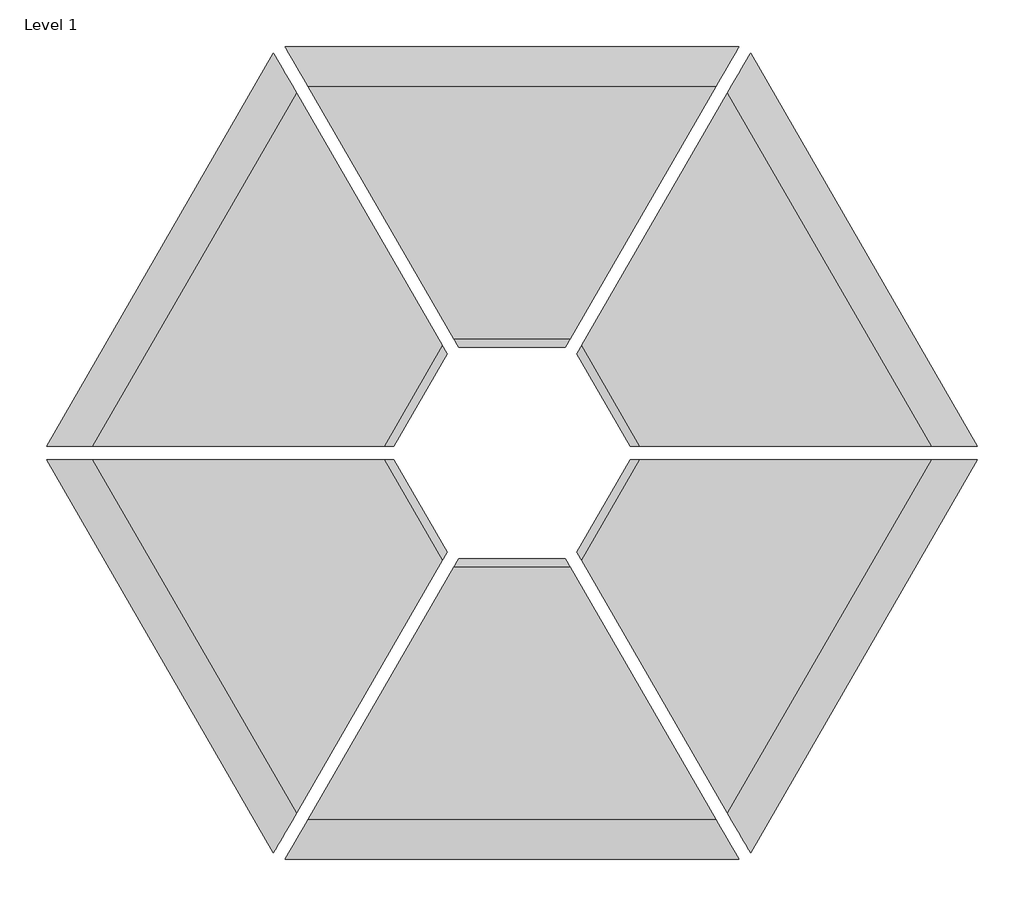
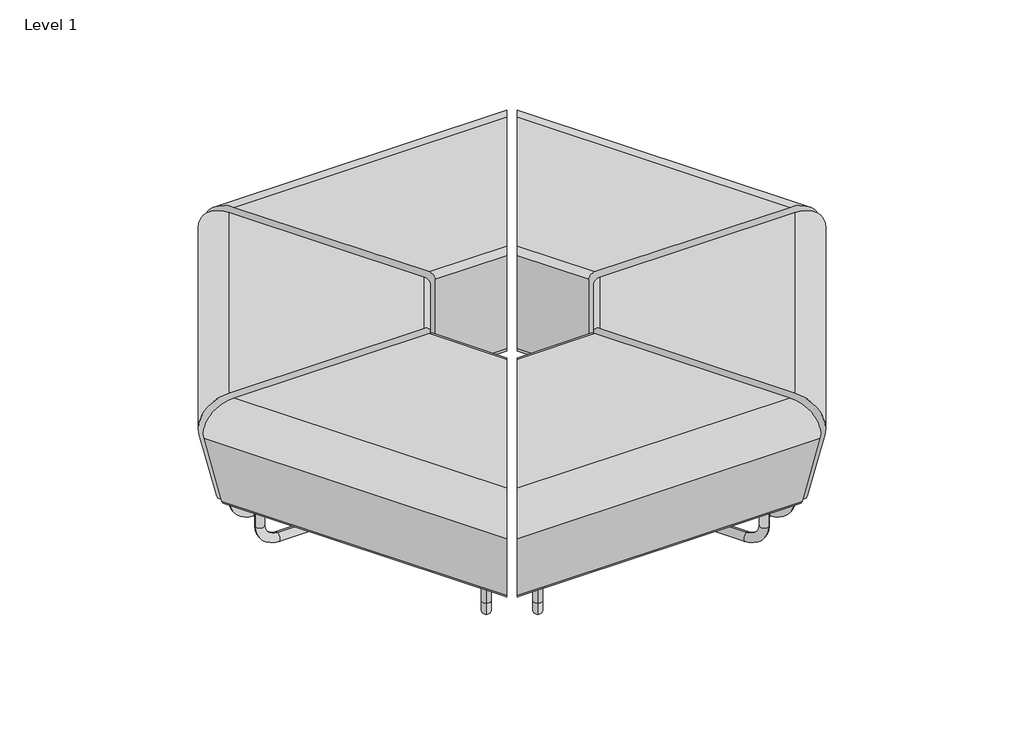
# One storey, incomplete: 6 furniture elements.
"""IFC4 building model written with IfcOpenShell, lengths in millimetres."""

import ifcopenshell
import ifcopenshell.guid

model = None  # the IFC model being written
_history = None  # IfcOwnerHistory: only IFC2X3 demands one
_inside = {}  # id of a spatial element -> (the spatial element, [elements in it])
_under = {}  # id of a project, library or spatial element -> (it, [spatial elements below it])
_declared = {}  # id of a project -> (the project, [libraries it declares])
_typed = {}  # id of a type object -> (the type object, [elements of that type])
_made_of = {}  # id of a material, layer set ... -> (it, [elements and type objects made of it])


def new_model(schema):
    """Start an empty IFC model of exactly this schema.

    Asked for "IFC4X3", IfcOpenShell would pick the latest addendum, in which some entities
    have other attributes; the version numbers below select the first issue.
    IFC2X3 requires an IfcOwnerHistory on every rooted entity: one is made here for all.
    """
    global model, _history
    if schema == "IFC4X3":
        model = ifcopenshell.file(schema_version=(4, 3, 0, 0))
    else:
        model = ifcopenshell.file(schema=schema)
    _inside.clear()
    _under.clear()
    _declared.clear()
    _typed.clear()
    _made_of.clear()
    _history = None
    if model.schema == "IFC2X3":
        org = make("IfcOrganization", Name="unknown")
        user = make(
            "IfcPersonAndOrganization",
            ThePerson=make("IfcPerson", FamilyName="unknown"),
            TheOrganization=org,
        )
        app = make(
            "IfcApplication",
            ApplicationDeveloper=org,
            Version="unknown",
            ApplicationFullName="unknown",
            ApplicationIdentifier="unknown",
        )
        _history = make(
            "IfcOwnerHistory",
            OwningUser=user,
            OwningApplication=app,
            ChangeAction="ADDED",
            CreationDate=0,
        )
    return model


def make(cls, **values):
    """One entity of the class cls with the attributes given. An attribute that is None is left unset."""
    return model.create_entity(
        cls, **{name: value for name, value in values.items() if value is not None}
    )


def rooted(cls, **values):
    """An entity with a GlobalId (a new one), such as an element, a storey or a relation."""
    return make(cls, GlobalId=ifcopenshell.guid.new(), OwnerHistory=_history, **values)


def si_unit(unit_type, name, prefix=None):
    """IfcSIUnit, for example si_unit("LENGTHUNIT", "METRE", prefix="MILLI")."""
    return make("IfcSIUnit", UnitType=unit_type, Prefix=prefix, Name=name)


def assignment(units):
    """IfcUnitAssignment: the units of a project."""
    return None if units is None else make("IfcUnitAssignment", Units=units)


def point(xyz):
    """IfcCartesianPoint."""
    return None if xyz is None else make("IfcCartesianPoint", Coordinates=xyz)


def direction(xyz):
    """IfcDirection."""
    return None if xyz is None else make("IfcDirection", DirectionRatios=xyz)


def frame(location, z_axis=None, x_axis=None):
    """IfcAxis2Placement3D, a coordinate frame: its origin and axes. An axis left out is left unset."""
    return make(
        "IfcAxis2Placement3D",
        Location=point(location),
        Axis=direction(z_axis),
        RefDirection=direction(x_axis),
    )


def origin():
    """The frame at (0, 0, 0) with its axes left unset."""
    return frame((0.0, 0.0, 0.0))


def place(relative_to, where):
    """IfcLocalPlacement: puts the frame where relative to a parent placement (None: the world)."""
    return make(
        "IfcLocalPlacement", PlacementRelTo=relative_to, RelativePlacement=where
    )


def context(
    kind, dimensions, precision=None, world=None, true_north=None, identifier=None
):
    """IfcGeometricRepresentationContext, for example the 3D "Model" context."""
    return make(
        "IfcGeometricRepresentationContext",
        ContextIdentifier=identifier,
        ContextType=kind,
        CoordinateSpaceDimension=dimensions,
        Precision=precision,
        WorldCoordinateSystem=world,
        TrueNorth=true_north,
    )


def project(units=None, contexts=None):
    """IfcProject with its units and contexts."""
    return rooted(
        "IfcProject",
        Name="project",
        RepresentationContexts=contexts,
        UnitsInContext=assignment(units),
    )


def spatial(cls, under=None, at=None, **own):
    """A site, building, storey or space (cls), placed at a placement, below another one or the project."""
    s = rooted(cls, ObjectPlacement=at, **own)
    if under is not None:
        _under.setdefault(under.id(), (under, []))[1].append(s)
    return s


def circle_curve(where, radius):
    """IfcCircle in the frame where."""
    return make("IfcCircle", Position=where, Radius=radius)


def ellipse_curve(where, semi_axis1, semi_axis2):
    """IfcEllipse in the frame where."""
    return make(
        "IfcEllipse", Position=where, SemiAxis1=semi_axis1, SemiAxis2=semi_axis2
    )


def trimmed(basis, trim1, trim2, sense, master):
    """IfcTrimmedCurve: the piece of a basis curve between two trims."""
    return make(
        "IfcTrimmedCurve",
        BasisCurve=basis,
        Trim1=trim1,
        Trim2=trim2,
        SenseAgreement=sense,
        MasterRepresentation=master,
    )


def shape(context_of_items, identifier, shape_type, items):
    """IfcShapeRepresentation: the items that make up one representation, for example the "Body"."""
    return make(
        "IfcShapeRepresentation",
        ContextOfItems=context_of_items,
        RepresentationIdentifier=identifier,
        RepresentationType=shape_type,
        Items=items,
    )


def source(mapping_origin, context_of_items, identifier, shape_type, items):
    """IfcRepresentationMap: a shape defined once, which mapped items show again and again."""
    return make(
        "IfcRepresentationMap",
        MappingOrigin=mapping_origin,
        MappedRepresentation=shape(context_of_items, identifier, shape_type, items),
    )


def transform(
    local_origin,
    x_axis=None,
    y_axis=None,
    z_axis=None,
    scale=None,
    scale2=None,
    scale3=None,
    uniform=True,
):
    """IfcCartesianTransformationOperator3D, or its non-uniform kind. x_axis, y_axis, z_axis: its Axis1, 2, 3."""
    if uniform:
        return make(
            "IfcCartesianTransformationOperator3D",
            Axis1=direction(x_axis),
            Axis2=direction(y_axis),
            LocalOrigin=point(local_origin),
            Scale=scale,
            Axis3=direction(z_axis),
        )
    return make(
        "IfcCartesianTransformationOperator3DnonUniform",
        Axis1=direction(x_axis),
        Axis2=direction(y_axis),
        LocalOrigin=point(local_origin),
        Scale=scale,
        Axis3=direction(z_axis),
        Scale2=scale2,
        Scale3=scale3,
    )


def mapped(mapping_source, mapping_target):
    """IfcMappedItem: shows the shape of a source again, moved by a transform."""
    return make(
        "IfcMappedItem", MappingSource=mapping_source, MappingTarget=mapping_target
    )


def made_of(thing, what):
    """Note that an element or type object is made of a material, layer set ...; save() writes the relation."""
    if what is not None:
        _made_of.setdefault(what.id(), (what, []))[1].append(thing)
    return thing


def element(
    cls,
    number,
    at=None,
    inside=None,
    cuts=None,
    type_object=None,
    material=None,
    context=None,
    identifier="Body",
    shape_type=None,
    held_by="IfcProductDefinitionShape",
    body=None,
    shapes=None,
    **own,
):
    """One element of the class cls, such as IfcWall. Its Tag is "e" and its number.

    at: its placement. inside: the storey or other place that contains it. cuts: it is an
    opening in that element (IfcRelVoidsElement). A single representation is given by context,
    identifier, shape_type and body (its items); several are given by shapes. held_by: the class
    of the entity that holds the representations. save() writes the other relations.
    """
    e = rooted(cls, Tag="e%d" % number, ObjectPlacement=at, **own)
    if body is not None:
        shapes = [shape(context, identifier, shape_type, body)]
    if shapes is not None:
        e.Representation = make(held_by, Representations=shapes)
    if inside is not None:
        _inside.setdefault(inside.id(), (inside, []))[1].append(e)
    if cuts is not None:
        rooted(
            "IfcRelVoidsElement", RelatingBuildingElement=cuts, RelatedOpeningElement=e
        )
    if type_object is not None:
        _typed.setdefault(type_object.id(), (type_object, []))[1].append(e)
    return made_of(e, material)


def aggregate(whole, parts):
    """IfcRelAggregates: a whole, such as a stair, and the parts it consists of."""
    return rooted("IfcRelAggregates", RelatingObject=whole, RelatedObjects=parts)


def save(model, path):
    """Write the relations noted so far, then the file.

    IfcRelAggregates (storeys below a building ...), IfcRelContainedInSpatialStructure (elements
    in a storey), IfcRelDefinesByType, IfcRelAssociatesMaterial and IfcRelDeclares: one each for
    every whole, place, type object, material and project.
    """
    for whole, parts in _under.values():
        aggregate(whole, parts)
    for where, things in _inside.values():
        rooted(
            "IfcRelContainedInSpatialStructure",
            RelatedElements=things,
            RelatingStructure=where,
        )
    for kind, things in _typed.values():
        rooted("IfcRelDefinesByType", RelatedObjects=things, RelatingType=kind)
    for what, things in _made_of.values():
        rooted("IfcRelAssociatesMaterial", RelatedObjects=things, RelatingMaterial=what)
    for by, libraries in _declared.values():
        rooted("IfcRelDeclares", RelatingContext=by, RelatedDefinitions=libraries)
    model.write(path)


def plane_surface(at):
    """IfcPlane: the flat surface through the origin of the frame at, square to its z axis."""
    return make("IfcPlane", Position=at)


def cylinder_surface(at, radius):
    """IfcCylindricalSurface: all points at the distance radius from the z axis of the frame at."""
    return make("IfcCylindricalSurface", Position=at, Radius=radius)


def revolved_surface(curve, axis_point, axis_direction):
    """IfcSurfaceOfRevolution: the curve turned about the line through axis_point along axis_direction."""
    return make(
        "IfcSurfaceOfRevolution",
        SweptCurve=make("IfcArbitraryOpenProfileDef", ProfileType="CURVE", Curve=curve),
        AxisPosition=make("IfcAxis1Placement", Location=point(axis_point), Axis=direction(axis_direction)),
    )


def advanced_brep(points, edges, surfaces, faces):
    """IfcAdvancedBrep: a solid bounded by faces that lie on surfaces and meet in shared edges.

    An edge is (start, end): straight between two places in points (the first is 0);
    or (start, end, curve); or (start, end, curve, False) where it runs against its curve.
    A face is (place in surfaces, loops), or (place, loops, False) where it looks against
    its surface's normal. A loop lists edges by number (the first is 1), with a minus sign
    where the edge is run from its end to its start. The first loop is the outer one.
    """
    corners = [point(p) for p in points]
    vertices = [make("IfcVertexPoint", VertexGeometry=c) for c in corners]
    made = []
    for start, end, *more in edges:
        made.append(
            make(
                "IfcEdgeCurve",
                EdgeStart=vertices[start],
                EdgeEnd=vertices[end],
                EdgeGeometry=more[0] if more else make("IfcPolyline", Points=[corners[start], corners[end]]),
                SameSense=more[1] if len(more) > 1 else True,
            )
        )
    hull = []
    for where, loops, *sense in faces:
        bounds = []
        for j, loop in enumerate(loops):
            ring = [make("IfcOrientedEdge", EdgeElement=made[abs(k) - 1], Orientation=k > 0) for k in loop]
            bounds.append(
                make(
                    "IfcFaceOuterBound" if j == 0 else "IfcFaceBound",
                    Bound=make("IfcEdgeLoop", EdgeList=ring),
                    Orientation=True,
                )
            )
        hull.append(make("IfcAdvancedFace", Bounds=bounds, FaceSurface=surfaces[where], SameSense=sense[0] if sense else True))
    return make("IfcAdvancedBrep", Outer=make("IfcClosedShell", CfsFaces=hull))


def lounge_seat_ki_hub_ottoman_b643156a(model_context):
    return source(origin(), model_context, "Body", "AdvancedBrep", [
        advanced_brep(
        [(87.3912127, -208.9719299, 120.65), (100.0912127, -186.9748847, 120.65), (87.3912127, -208.9719299, 63.5), (100.0912127, -186.9748847, 63.5), (119.1412127, -153.9793168, 25.4), (119.1412127, -153.9793168, 0.0), (296.9412127, 153.9793168, 0.0), (296.9412127, 153.9793168, 25.4), (315.9912127, 186.9748847, 63.5), (328.6912127, 208.9719299, 63.5), (328.6912127, 208.9719299, 120.65), (315.9912127, 186.9748847, 120.65)],
        [
            (0, 1, circle_curve(frame((93.7412127, -197.9734073, 120.65), z_axis=(0.0, 0.0, 1.0), x_axis=(0.4999999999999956, 0.8660254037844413, 0.0)), 12.7)),
            (1, 0, circle_curve(frame((93.7412127, -197.9734073, 120.65), z_axis=(0.0, 0.0, 1.0), x_axis=(0.4999999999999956, 0.8660254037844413, 0.0)), 12.7)),
            (0, 2),
            (2, 3, circle_curve(frame((93.7412127, -197.9734073, 63.5), z_axis=(0.0, 0.0, 1.0), x_axis=(0.4999999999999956, 0.8660254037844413, 0.0)), 12.7)),
            (3, 1),
            (3, 2, circle_curve(frame((93.7412127, -197.9734073, 63.5), z_axis=(0.0, 0.0, 1.0), x_axis=(0.4999999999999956, 0.8660254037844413, 0.0)), 12.7)),
            (4, 3, circle_curve(frame((119.1412127, -153.9793168, 63.5), z_axis=(-0.8660254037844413, 0.4999999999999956, 0.0), x_axis=(-0.4999999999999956, -0.8660254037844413, 0.0)), 38.1)),
            (2, 5, circle_curve(frame((119.1412127, -153.9793168, 63.5), z_axis=(0.8660254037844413, -0.4999999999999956, 0.0), x_axis=(-0.4999999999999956, -0.8660254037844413, 0.0)), 63.5)),
            (5, 4, circle_curve(frame((119.1412127, -153.9793168, 12.7), z_axis=(-0.4999999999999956, -0.8660254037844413, 0.0), x_axis=(0.0, 0.0, 1.0)), 12.7)),
            (4, 5, circle_curve(frame((119.1412127, -153.9793168, 12.7), z_axis=(-0.4999999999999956, -0.8660254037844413, 0.0), x_axis=(0.0, 0.0, 1.0)), 12.7)),
            (5, 6),
            (6, 7, circle_curve(frame((296.9412127, 153.9793168, 12.7), z_axis=(-0.4999999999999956, -0.8660254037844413, 0.0), x_axis=(0.0, 0.0, 1.0)), 12.7)),
            (7, 4),
            (7, 6, circle_curve(frame((296.9412127, 153.9793168, 12.7), z_axis=(-0.4999999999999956, -0.8660254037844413, 0.0), x_axis=(0.0, 0.0, 1.0)), 12.7)),
            (8, 7, circle_curve(frame((296.9412127, 153.9793168, 63.5), z_axis=(-0.8660254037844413, 0.4999999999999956, 0.0), x_axis=(0.0, 0.0, -1.0)), 38.1)),
            (6, 9, circle_curve(frame((296.9412127, 153.9793168, 63.5), z_axis=(0.8660254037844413, -0.4999999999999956, 0.0), x_axis=(0.0, 0.0, -1.0)), 63.5)),
            (9, 8, circle_curve(frame((322.3412127, 197.9734073, 63.5), z_axis=(0.0, 0.0, -1.0), x_axis=(-0.4999999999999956, -0.8660254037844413, 0.0)), 12.7)),
            (8, 9, circle_curve(frame((322.3412127, 197.9734073, 63.5), z_axis=(0.0, 0.0, -1.0), x_axis=(-0.4999999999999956, -0.8660254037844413, 0.0)), 12.7)),
            (10, 11, circle_curve(frame((322.3412127, 197.9734073, 120.65), z_axis=(0.0, 0.0, 1.0), x_axis=(-0.4999999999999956, -0.8660254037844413, 0.0)), 12.7)),
            (11, 10, circle_curve(frame((322.3412127, 197.9734073, 120.65), z_axis=(0.0, 0.0, 1.0), x_axis=(-0.4999999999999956, -0.8660254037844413, 0.0)), 12.7)),
            (9, 10),
            (11, 8),
        ],
        [
            plane_surface(frame((93.7412127, -197.9734073, 120.65), z_axis=(0.0, 0.0, 1.0000000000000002), x_axis=(0.8660254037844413, -0.4999999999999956, 0.0))),
            cylinder_surface(frame((93.7412127, -197.9734073, 120.65), z_axis=(0.0, 0.0, 1.0), x_axis=(0.4999999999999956, 0.8660254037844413, 0.0)), 12.7),
            revolved_surface(trimmed(ellipse_curve(frame((93.7412127, -197.9734073, 63.5), z_axis=(0.0, 0.0, 1.0), x_axis=(0.4999999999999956, 0.8660254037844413, 0.0)), 12.7, 12.7), [point((87.3912127, -208.9719299, 63.5))], [point((100.0912127, -186.9748847, 63.5))], True, "CARTESIAN"), (119.1412127, -153.9793168, 63.5), (0.8660254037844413, -0.4999999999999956, 0.0)),
            revolved_surface(trimmed(ellipse_curve(frame((93.7412127, -197.9734073, 63.5), z_axis=(0.0, 0.0, 1.0), x_axis=(0.4999999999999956, 0.8660254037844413, 0.0)), 12.7, 12.7), [point((100.0912127, -186.9748847, 63.5))], [point((87.3912127, -208.9719299, 63.5))], True, "CARTESIAN"), (119.1412127, -153.9793168, 63.5), (0.8660254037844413, -0.4999999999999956, 0.0)),
            cylinder_surface(frame((119.1412127, -153.9793168, 12.7), z_axis=(-0.4999999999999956, -0.8660254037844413, 0.0), x_axis=(0.0, 0.0, 1.0)), 12.7),
            revolved_surface(trimmed(ellipse_curve(frame((296.9412127, 153.9793168, 12.7), z_axis=(-0.4999999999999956, -0.8660254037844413, 0.0), x_axis=(0.0, 0.0, 1.0)), 12.7, 12.7), [point((296.9412127, 153.9793168, 0.0))], [point((296.9412127, 153.9793168, 25.4))], True, "CARTESIAN"), (296.9412127, 153.9793168, 63.5), (0.8660254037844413, -0.4999999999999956, 0.0)),
            revolved_surface(trimmed(ellipse_curve(frame((296.9412127, 153.9793168, 12.7), z_axis=(-0.4999999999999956, -0.8660254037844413, 0.0), x_axis=(0.0, 0.0, 1.0)), 12.7, 12.7), [point((296.9412127, 153.9793168, 25.4))], [point((296.9412127, 153.9793168, 0.0))], True, "CARTESIAN"), (296.9412127, 153.9793168, 63.5), (0.8660254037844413, -0.4999999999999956, 0.0)),
            plane_surface(frame((322.3412127, 197.9734073, 120.65), z_axis=(0.0, 0.0, 1.0000000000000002), x_axis=(0.8660254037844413, -0.4999999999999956, 0.0))),
            cylinder_surface(frame((322.3412127, 197.9734073, 63.5), z_axis=(0.0, 0.0, -1.0), x_axis=(-0.4999999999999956, -0.8660254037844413, 0.0)), 12.7),
        ],
        [
            (0, [[1, 2]]),
            (1, [[-1, 3, 4, 5]]),
            (1, [[-2, -5, 6, -3]]),
            (2, [[7, -4, 8, 9]]),
            (3, [[-8, -6, -7, 10]]),
            (4, [[-9, 11, 12, 13]]),
            (4, [[-10, -13, 14, -11]]),
            (5, [[15, -12, 16, 17]]),
            (6, [[-16, -14, -15, 18]]),
            (7, [[19, 20]]),
            (8, [[-17, 21, -20, 22]]),
            (8, [[-18, -22, -19, -21]]),
        ],
    ),
        advanced_brep(
        [(-87.3912127, -208.9719299, 120.65), (-100.0912127, -186.9748847, 120.65), (-87.3912127, -208.9719299, 63.5), (-100.0912127, -186.9748847, 63.5), (-119.1412127, -153.9793168, 25.4), (-119.1412127, -153.9793168, 0.0), (-296.9412127, 153.9793168, 0.0), (-296.9412127, 153.9793168, 25.4), (-315.9912127, 186.9748847, 63.5), (-328.6912127, 208.9719299, 63.5), (-328.6912127, 208.9719299, 120.65), (-315.9912127, 186.9748847, 120.65)],
        [
            (0, 1, circle_curve(frame((-93.7412127, -197.9734073, 120.65), z_axis=(0.0, 0.0, 1.0), x_axis=(-0.4999999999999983, 0.8660254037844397, 0.0)), 12.7)),
            (1, 0, circle_curve(frame((-93.7412127, -197.9734073, 120.65), z_axis=(0.0, 0.0, 1.0), x_axis=(-0.4999999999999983, 0.8660254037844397, 0.0)), 12.7)),
            (0, 2),
            (2, 3, circle_curve(frame((-93.7412127, -197.9734073, 63.5), z_axis=(0.0, 0.0, 1.0), x_axis=(-0.4999999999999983, 0.8660254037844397, 0.0)), 12.7)),
            (3, 1),
            (3, 2, circle_curve(frame((-93.7412127, -197.9734073, 63.5), z_axis=(0.0, 0.0, 1.0), x_axis=(-0.4999999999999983, 0.8660254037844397, 0.0)), 12.7)),
            (4, 3, circle_curve(frame((-119.1412127, -153.9793168, 63.5), z_axis=(-0.8660254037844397, -0.4999999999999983, 0.0), x_axis=(0.4999999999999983, -0.8660254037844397, 0.0)), 38.1)),
            (2, 5, circle_curve(frame((-119.1412127, -153.9793168, 63.5), z_axis=(0.8660254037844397, 0.4999999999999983, 0.0), x_axis=(0.4999999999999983, -0.8660254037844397, 0.0)), 63.5)),
            (5, 4, circle_curve(frame((-119.1412127, -153.9793168, 12.7), z_axis=(0.4999999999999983, -0.8660254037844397, 0.0), x_axis=(0.0, 0.0, 1.0)), 12.7)),
            (4, 5, circle_curve(frame((-119.1412127, -153.9793168, 12.7), z_axis=(0.4999999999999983, -0.8660254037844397, 0.0), x_axis=(0.0, 0.0, 1.0)), 12.7)),
            (5, 6),
            (6, 7, circle_curve(frame((-296.9412127, 153.9793168, 12.7), z_axis=(0.4999999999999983, -0.8660254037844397, 0.0), x_axis=(0.0, 0.0, 1.0)), 12.7)),
            (7, 4),
            (7, 6, circle_curve(frame((-296.9412127, 153.9793168, 12.7), z_axis=(0.4999999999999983, -0.8660254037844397, 0.0), x_axis=(0.0, 0.0, 1.0)), 12.7)),
            (8, 7, circle_curve(frame((-296.9412127, 153.9793168, 63.5), z_axis=(-0.8660254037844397, -0.4999999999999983, 0.0), x_axis=(0.0, 0.0, -1.0)), 38.1)),
            (6, 9, circle_curve(frame((-296.9412127, 153.9793168, 63.5), z_axis=(0.8660254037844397, 0.4999999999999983, 0.0), x_axis=(0.0, 0.0, -1.0)), 63.5)),
            (9, 8, circle_curve(frame((-322.3412127, 197.9734073, 63.5), z_axis=(0.0, 0.0, -1.0), x_axis=(0.4999999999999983, -0.8660254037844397, 0.0)), 12.7)),
            (8, 9, circle_curve(frame((-322.3412127, 197.9734073, 63.5), z_axis=(0.0, 0.0, -1.0), x_axis=(0.4999999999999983, -0.8660254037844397, 0.0)), 12.7)),
            (10, 11, circle_curve(frame((-322.3412127, 197.9734073, 120.65), z_axis=(0.0, 0.0, 1.0), x_axis=(0.4999999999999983, -0.8660254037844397, 0.0)), 12.7)),
            (11, 10, circle_curve(frame((-322.3412127, 197.9734073, 120.65), z_axis=(0.0, 0.0, 1.0), x_axis=(0.4999999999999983, -0.8660254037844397, 0.0)), 12.7)),
            (9, 10),
            (11, 8),
        ],
        [
            plane_surface(frame((-93.7412127, -197.9734073, 120.65), z_axis=(0.0, 0.0, 1.0000000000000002), x_axis=(0.8660254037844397, 0.4999999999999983, 0.0))),
            cylinder_surface(frame((-93.7412127, -197.9734073, 120.65), z_axis=(0.0, 0.0, 1.0), x_axis=(-0.4999999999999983, 0.8660254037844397, 0.0)), 12.7),
            revolved_surface(trimmed(ellipse_curve(frame((-93.7412127, -197.9734073, 63.5), z_axis=(0.0, 0.0, 1.0), x_axis=(-0.4999999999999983, 0.8660254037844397, 0.0)), 12.7, 12.7), [point((-87.3912127, -208.9719299, 63.5))], [point((-100.0912127, -186.9748847, 63.5))], True, "CARTESIAN"), (-119.1412127, -153.9793168, 63.5), (0.8660254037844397, 0.4999999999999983, 0.0)),
            revolved_surface(trimmed(ellipse_curve(frame((-93.7412127, -197.9734073, 63.5), z_axis=(0.0, 0.0, 1.0), x_axis=(-0.4999999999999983, 0.8660254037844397, 0.0)), 12.7, 12.7), [point((-100.0912127, -186.9748847, 63.5))], [point((-87.3912127, -208.9719299, 63.5))], True, "CARTESIAN"), (-119.1412127, -153.9793168, 63.5), (0.8660254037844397, 0.4999999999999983, 0.0)),
            cylinder_surface(frame((-119.1412127, -153.9793168, 12.7), z_axis=(0.4999999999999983, -0.8660254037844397, 0.0), x_axis=(0.0, 0.0, 1.0)), 12.7),
            revolved_surface(trimmed(ellipse_curve(frame((-296.9412127, 153.9793168, 12.7), z_axis=(0.4999999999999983, -0.8660254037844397, 0.0), x_axis=(0.0, 0.0, 1.0)), 12.7, 12.7), [point((-296.9412127, 153.9793168, 0.0))], [point((-296.9412127, 153.9793168, 25.4))], True, "CARTESIAN"), (-296.9412127, 153.9793168, 63.5), (0.8660254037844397, 0.4999999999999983, 0.0)),
            revolved_surface(trimmed(ellipse_curve(frame((-296.9412127, 153.9793168, 12.7), z_axis=(0.4999999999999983, -0.8660254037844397, 0.0), x_axis=(0.0, 0.0, 1.0)), 12.7, 12.7), [point((-296.9412127, 153.9793168, 25.4))], [point((-296.9412127, 153.9793168, 0.0))], True, "CARTESIAN"), (-296.9412127, 153.9793168, 63.5), (0.8660254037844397, 0.4999999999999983, 0.0)),
            plane_surface(frame((-322.3412127, 197.9734073, 120.65), z_axis=(0.0, 0.0, 1.0000000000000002), x_axis=(0.8660254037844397, 0.4999999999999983, 0.0))),
            cylinder_surface(frame((-322.3412127, 197.9734073, 63.5), z_axis=(0.0, 0.0, -1.0), x_axis=(0.4999999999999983, -0.8660254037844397, 0.0)), 12.7),
        ],
        [
            (0, [[1, 2]]),
            (1, [[-1, 3, 4, 5]]),
            (1, [[-2, -5, 6, -3]]),
            (2, [[7, -4, 8, 9]]),
            (3, [[-8, -6, -7, 10]]),
            (4, [[-9, 11, 12, 13]]),
            (4, [[-10, -13, 14, -11]]),
            (5, [[15, -12, 16, 17]]),
            (6, [[-16, -14, -15, 18]]),
            (7, [[19, 20]]),
            (8, [[-17, 21, -20, 22]]),
            (8, [[-18, -22, -19, -21]]),
        ],
    ),
        advanced_brep(
        [(-110.7654355, -270.0865883, 431.8), (110.7654355, -270.0865883, 431.8), (387.8059095, 209.7615883, 431.8), (-387.8059095, 209.7615883, 431.8), (110.7654355, -270.0865883, 120.65), (-110.7654355, -270.0865883, 120.65), (-396.5278636, 224.868456, 120.65), (396.5278636, 224.868456, 120.65), (-101.6, -285.9615883, 415.925), (-431.8, 285.9615883, 355.6), (-430.8386236, 284.2964355, 339.7571292), (-405.4930124, 240.3965491, 133.2244019), (-101.6, -285.9615883, 136.525), (101.6, -285.9615883, 415.925), (101.6, -285.9615883, 136.525), (405.4930124, 240.3965491, 133.2244019), (430.8386236, 284.2964355, 339.7571292), (431.8, 285.9615883, 355.6)],
        [
            (0, 1),
            (1, 2),
            (2, 3),
            (3, 0),
            (4, 5),
            (5, 6),
            (6, 7),
            (7, 4),
            (8, 0, ellipse_curve(frame((-110.7654355, -270.0865883, 415.925), z_axis=(-0.8660254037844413, -0.4999999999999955, 0.0), x_axis=(0.49999999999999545, -0.8660254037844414, 0.0)), 18.330871, 15.875)),
            (3, 9, ellipse_curve(frame((-387.8059095, 209.7615883, 355.6), z_axis=(-0.8660254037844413, -0.4999999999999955, 0.0), x_axis=(-0.49999999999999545, 0.8660254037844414, 0.0)), 87.988181, 76.2)),
            (9, 10, ellipse_curve(frame((-387.8059095, 209.7615883, 355.6), z_axis=(-0.8660254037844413, -0.4999999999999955, 0.0), x_axis=(-0.49999999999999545, 0.8660254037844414, 0.0)), 87.988181, 76.2)),
            (10, 11),
            (11, 6, ellipse_curve(frame((-396.5278636, 224.868456, 136.525), z_axis=(-0.8660254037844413, -0.4999999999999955, 0.0), x_axis=(-0.49999999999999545, 0.8660254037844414, 0.0)), 18.330871, 15.875)),
            (5, 12, ellipse_curve(frame((-110.7654355, -270.0865883, 136.525), z_axis=(-0.8660254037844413, -0.4999999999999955, 0.0), x_axis=(0.49999999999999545, -0.8660254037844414, 0.0)), 18.330871, 15.875)),
            (12, 8),
            (1, 13, ellipse_curve(frame((110.7654355, -270.0865883, 415.925), z_axis=(0.8660254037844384, -0.5000000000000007, 0.0), x_axis=(0.5000000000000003, 0.8660254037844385, 0.0)), 18.330871, 15.875)),
            (13, 14),
            (14, 4, ellipse_curve(frame((110.7654355, -270.0865883, 136.525), z_axis=(0.8660254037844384, -0.5000000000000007, 0.0), x_axis=(0.5000000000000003, 0.8660254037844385, 0.0)), 18.330871, 15.875)),
            (7, 15, ellipse_curve(frame((396.5278636, 224.868456, 136.525), z_axis=(0.8660254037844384, -0.5000000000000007, 0.0), x_axis=(-0.5000000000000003, -0.8660254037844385, 0.0)), 18.330871, 15.875)),
            (15, 16),
            (16, 17, ellipse_curve(frame((387.8059095, 209.7615883, 355.6), z_axis=(0.8660254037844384, -0.5000000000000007, 0.0), x_axis=(-0.5000000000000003, -0.8660254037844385, 0.0)), 87.988181, 76.2)),
            (17, 2, ellipse_curve(frame((387.8059095, 209.7615883, 355.6), z_axis=(0.8660254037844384, -0.5000000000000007, 0.0), x_axis=(-0.5000000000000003, -0.8660254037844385, 0.0)), 87.988181, 76.2)),
            (8, 13),
            (12, 14),
            (10, 16),
            (15, 11),
        ],
        [
            plane_surface(frame((431.8, 270.0865883, 431.8), z_axis=(0.0, 0.0, 1.0), x_axis=(-1.0, 0.0, 0.0))),
            plane_surface(frame((431.8, -270.0865883, 120.65), z_axis=(0.0, 0.0, -1.0), x_axis=(-1.0, 0.0, 0.0))),
            plane_surface(frame((-101.6, -285.9615883, 457.2), z_axis=(-0.8660254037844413, -0.4999999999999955, 0.0), x_axis=(0.0, 0.0, -1.0))),
            plane_surface(frame((431.8, 285.9615883, 457.2), z_axis=(0.8660254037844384, -0.5000000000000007, 0.0), x_axis=(0.0, 0.0, -1.0))),
            cylinder_surface(frame((-431.8, -270.0865883, 415.925), z_axis=(1.0, 0.0, 0.0), x_axis=(0.0, 1.0, 0.0)), 15.875),
            plane_surface(frame((431.8, -285.9615883, 415.925), z_axis=(0.0, -1.0, 0.0), x_axis=(-1.0, 0.0, 0.0))),
            cylinder_surface(frame((-431.8, -270.0865883, 136.525), z_axis=(1.0, 0.0, 0.0), x_axis=(0.0, 1.0, 0.0)), 15.875),
            plane_surface(frame((457.2, 284.2964355, 339.7571292), z_axis=(0.0, 0.9781476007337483, -0.20791169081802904), x_axis=(-1.0, 0.0, 0.0))),
            cylinder_surface(frame((-457.2, 224.868456, 136.525), z_axis=(-1.0, 0.0, 0.0), x_axis=(0.0, 1.0, 0.0)), 15.875),
            cylinder_surface(frame((-457.2, 209.7615883, 355.6), z_axis=(-1.0, 0.0, 0.0), x_axis=(0.0, 1.0, 0.0)), 76.2),
        ],
        [
            (0, [[1, 2, 3, 4]]),
            (1, [[5, 6, 7, 8]]),
            (2, [[9, -4, 10, 11, 12, 13, -6, 14, 15]]),
            (3, [[16, 17, 18, -8, 19, 20, 21, 22, -2]]),
            (4, [[-1, -9, 23, -16]]),
            (5, [[-23, -15, 24, -17]]),
            (6, [[-24, -14, -5, -18]]),
            (7, [[25, -20, 26, -12]]),
            (8, [[-26, -19, -7, -13]]),
            (9, [[-25, -11, -10, -3, -22, -21]]),
        ],
    ),
    ])


model = new_model("IFC4")

# Units and contexts
model_context = context("Model", 3, world=origin())
ifc_project = project(units=[si_unit("LENGTHUNIT", "METRE", prefix="MILLI")], contexts=[model_context])

# Site, building, storey
site = spatial("IfcSite", under=ifc_project)
building = spatial("IfcBuilding", under=site)
storey = spatial("IfcBuildingStorey", under=building, Name="Level 1", Elevation=0.0)

# Furniture
placement = place(None, origin())
lounge_seat_ki_hub_ottoman_shape = lounge_seat_ki_hub_ottoman_b643156a(model_context)
element("IfcFurniture", 1, ObjectType="Lounge-Seat-KI-Hub-Ottoman : 60\x9d\x9d° Wedge - Outside", at=placement, inside=storey, context=model_context, shape_type="MappedRepresentation", body=[
    mapped(lounge_seat_ki_hub_ottoman_shape, transform((3676.3988674, 3549.1869009, 0.0), x_axis=(1.0, 0.0, 0.0), y_axis=(0.0, 1.0, 0.0), z_axis=(0.0, 0.0, 1.0))),
])
element("IfcFurniture", 2, ObjectType="Lounge-Seat-KI-Hub-Ottoman : 60\x9d\x9d° Wedge - Outside", at=placement, inside=storey, context=model_context, shape_type="MappedRepresentation", body=[
    mapped(lounge_seat_ki_hub_ottoman_shape, transform((3254.3518222, 3305.5179257, 0.0), x_axis=(0.49999999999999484, 0.8660254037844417, 0.0), y_axis=(-0.8660254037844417, 0.49999999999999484, 0.0), z_axis=(0.0, 0.0, 1.0))),
])
element("IfcFurniture", 3, ObjectType="Lounge-Seat-KI-Hub-Ottoman : 60\x9d\x9d° Wedge - Outside", at=placement, inside=storey, context=model_context, shape_type="MappedRepresentation", body=[
    mapped(lounge_seat_ki_hub_ottoman_shape, transform((3254.3518222, 2818.1799753, 0.0), x_axis=(-0.49999999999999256, 0.866025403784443, 0.0), y_axis=(-0.866025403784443, -0.49999999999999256, 0.0), z_axis=(0.0, 0.0, 1.0))),
])
element("IfcFurniture", 4, ObjectType="Lounge-Seat-KI-Hub-Ottoman : 60\x9d\x9d° Wedge - Outside", at=placement, inside=storey, context=model_context, shape_type="MappedRepresentation", body=[
    mapped(lounge_seat_ki_hub_ottoman_shape, transform((3676.3988674, 2574.5110001, 0.0), x_axis=(-1.0, 0.0, 0.0), y_axis=(0.0, -1.0, 0.0), z_axis=(0.0, 0.0, 1.0))),
])
element("IfcFurniture", 5, ObjectType="Lounge-Seat-KI-Hub-Ottoman : 60\x9d\x9d° Wedge - Outside", at=placement, inside=storey, context=model_context, shape_type="MappedRepresentation", body=[
    mapped(lounge_seat_ki_hub_ottoman_shape, transform((4098.4459127, 2818.1799753, 0.0), x_axis=(-0.49999999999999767, -0.8660254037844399, 0.0), y_axis=(0.8660254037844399, -0.49999999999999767, 0.0), z_axis=(0.0, 0.0, 1.0))),
])
element("IfcFurniture", 6, ObjectType="Lounge-Seat-KI-Hub-Ottoman : 60\x9d\x9d° Wedge - Outside", at=placement, inside=storey, context=model_context, shape_type="MappedRepresentation", body=[
    mapped(lounge_seat_ki_hub_ottoman_shape, transform((4098.4459127, 3305.5179257, 0.0), x_axis=(0.49999999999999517, -0.8660254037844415, 0.0), y_axis=(0.8660254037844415, 0.49999999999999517, 0.0), z_axis=(0.0, 0.0, 1.0))),
])

save(model, "model.ifc")
